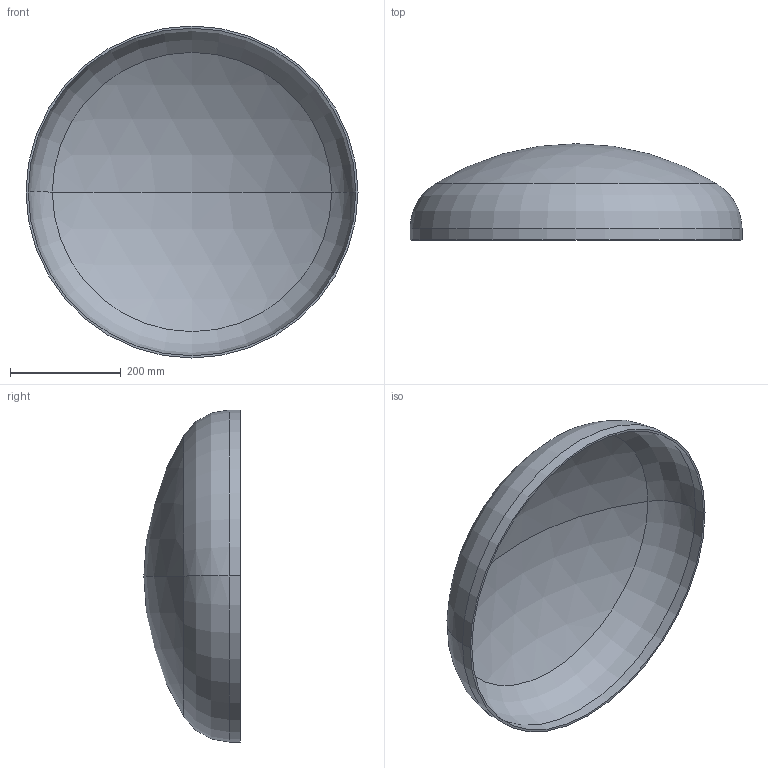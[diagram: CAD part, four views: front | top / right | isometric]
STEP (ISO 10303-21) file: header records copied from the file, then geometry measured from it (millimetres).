
FILE_DESCRIPTION (( 'STEP AP203' ), '1' );
FILE_NAME ('DIN 28013 Korbbogenform_-_Boden DIN 28013 - 600 x 20 - I - s=4.step', '2016-07-01T07:56:39', ( '' ), ( '' ), 'SwSTEP 2.0', 'SolidWorks 2013', '' );
FILE_SCHEMA (( 'CONFIG_CONTROL_DESIGN' ));
Length unit declared in the file: millimetre
Products named in the file (1): DIN 28013 Korbbogenform_-_Boden DIN 28013 - 600 x 20 - I - s=4
Bounding box: 600 x 173.96 x 600 mm (x, y, z)
Volume: 1701138.9 mm3; surface area: 858092.2 mm2
Topology: 1 solids, 1 shells, 13 faces, 24 edges, 14 vertices
Faces by surface type: torus 4, cylinder 4, sphere 4, plane 1
Entity records: 407 total; most frequent: DIRECTION 72, CARTESIAN_POINT 52, ORIENTED_EDGE 48, AXIS2_PLACEMENT_3D 34, EDGE_CURVE 24, CIRCLE 20, VERTEX_POINT 14, EDGE_LOOP 14
